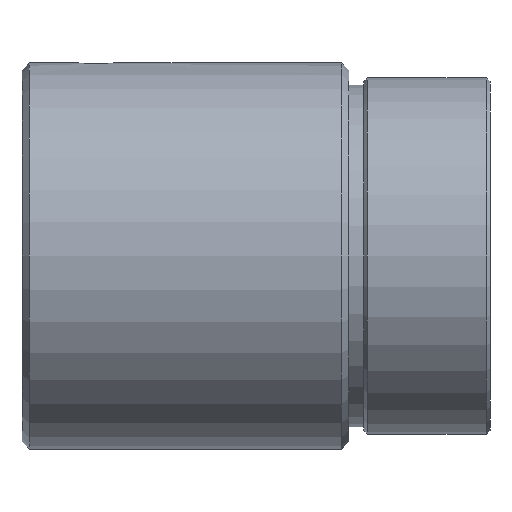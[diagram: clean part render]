
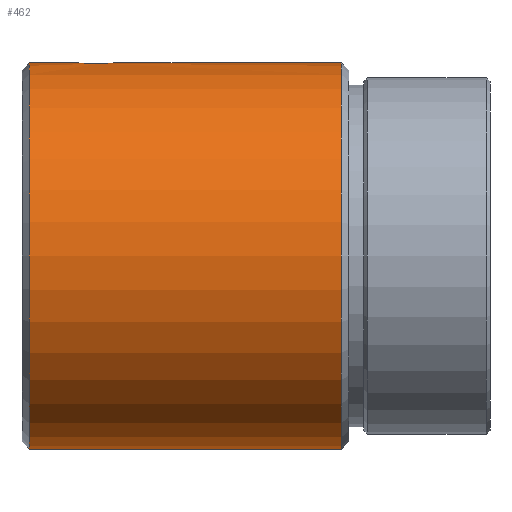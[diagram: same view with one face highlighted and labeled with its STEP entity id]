
A CAD part, front view. The second image highlights one B-rep face of the part: STEP entity #462.
In plain terms, the highlighted cylindrical face has radius 26 mm (diameter 52 mm), a partial arc.
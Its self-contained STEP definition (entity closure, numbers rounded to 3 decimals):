
#1 = CARTESIAN_POINT ( 'NONE',  ( 9.351, -2.42, 25.887 ) ) ;
#7 = VERTEX_POINT ( 'NONE', #93 ) ;
#8 = CARTESIAN_POINT ( 'NONE',  ( 12.168, -1.255, 25.97 ) ) ;
#22 = DIRECTION ( 'NONE',  ( 0., 0., 1. ) ) ;
#55 = CARTESIAN_POINT ( 'NONE',  ( -28.983, 0., 26. ) ) ;
#65 = CARTESIAN_POINT ( 'NONE',  ( 7.58, -0.648, 25.992 ) ) ;
#70 = CARTESIAN_POINT ( 'NONE',  ( 9.833, -2.5, 25.88 ) ) ;
#73 = DIRECTION ( 'NONE',  ( -1., 0., 0. ) ) ;
#77 = CARTESIAN_POINT ( 'NONE',  ( 12.434, -0.659, 25.993 ) ) ;
#93 = CARTESIAN_POINT ( 'NONE',  ( 43., 0., -26. ) ) ;
#101 = ORIENTED_EDGE ( 'NONE', *, *, #649, .F. ) ;
#115 = B_SPLINE_CURVE_WITH_KNOTS ( 'NONE', 3,
 ( #317, #673, #476, #65, #549, #139, #628, #216, #699, #281, #771, #342, #838, #411, #1, #480, #70, #555, #145, #632, #223, #705, #287, #778, #349, #846, #415, #8, #488, #77, #564, #153 ),
 .UNSPECIFIED., .F., .F.,
 ( 4, 2, 2, 2, 2, 2, 2, 2, 2, 2, 2, 2, 2, 2, 2, 4 ),
 ( 0.008, 0.008, 0.009, 0.009, 0.01, 0.01, 0.011, 0.011, 0.012, 0.012, 0.013, 0.013, 0.014, 0.014, 0.015, 0.016 ),
 .UNSPECIFIED. ) ;
#120 = ORIENTED_EDGE ( 'NONE', *, *, #755, .F. ) ;
#127 = DIRECTION ( 'NONE',  ( 0., 0., 1. ) ) ;
#139 = CARTESIAN_POINT ( 'NONE',  ( 7.752, -1.107, 25.977 ) ) ;
#145 = CARTESIAN_POINT ( 'NONE',  ( 10.326, -2.484, 25.881 ) ) ;
#149 = CARTESIAN_POINT ( 'NONE',  ( 1., 0., -26. ) ) ;
#153 = CARTESIAN_POINT ( 'NONE',  ( 12.5, 0., 26. ) ) ;
#163 = CYLINDRICAL_SURFACE ( 'NONE', #470, 26. ) ;
#166 = CARTESIAN_POINT ( 'NONE',  ( 7.5, 0., 26. ) ) ;
#216 = CARTESIAN_POINT ( 'NONE',  ( 8.012, -1.525, 25.956 ) ) ;
#223 = CARTESIAN_POINT ( 'NONE',  ( 10.804, -2.373, 25.892 ) ) ;
#244 = AXIS2_PLACEMENT_3D ( 'NONE', #398, #901, #467 ) ;
#273 = VECTOR ( 'NONE', #877, 1000. ) ;
#281 = CARTESIAN_POINT ( 'NONE',  ( 8.346, -1.882, 25.932 ) ) ;
#287 = CARTESIAN_POINT ( 'NONE',  ( 11.251, -2.171, 25.909 ) ) ;
#293 = ORIENTED_EDGE ( 'NONE', *, *, #596, .F. ) ;
#301 = LINE ( 'NONE', #378, #273 ) ;
#317 = CARTESIAN_POINT ( 'NONE',  ( 7.5, 0., 26. ) ) ;
#342 = CARTESIAN_POINT ( 'NONE',  ( 8.746, -2.169, 25.91 ) ) ;
#348 = CARTESIAN_POINT ( 'NONE',  ( 1., 0., 26. ) ) ;
#349 = CARTESIAN_POINT ( 'NONE',  ( 11.651, -1.884, 25.932 ) ) ;
#359 = VERTEX_POINT ( 'NONE', #785 ) ;
#362 = EDGE_LOOP ( 'NONE', ( #101, #706, #897, #293, #903, #120 ) ) ;
#378 = CARTESIAN_POINT ( 'NONE',  ( -28.983, 0., 26. ) ) ;
#379 = VERTEX_POINT ( 'NONE', #348 ) ;
#391 = LINE ( 'NONE', #888, #802 ) ;
#396 = DIRECTION ( 'NONE',  ( -1., 0., 0. ) ) ;
#398 = CARTESIAN_POINT ( 'NONE',  ( 1., 0., 0. ) ) ;
#405 = CIRCLE ( 'NONE', #244, 26. ) ;
#409 = AXIS2_PLACEMENT_3D ( 'NONE', #859, #430, #22 ) ;
#411 = CARTESIAN_POINT ( 'NONE',  ( 9.192, -2.372, 25.892 ) ) ;
#415 = CARTESIAN_POINT ( 'NONE',  ( 11.985, -1.528, 25.955 ) ) ;
#430 = DIRECTION ( 'NONE',  ( -1., 0., 0. ) ) ;
#438 = CIRCLE ( 'NONE', #409, 26. ) ;
#445 = VERTEX_POINT ( 'NONE', #497 ) ;
#461 = VERTEX_POINT ( 'NONE', #149 ) ;
#462 = ADVANCED_FACE ( 'NONE', ( #871 ), #163, .T. ) ;
#467 = DIRECTION ( 'NONE',  ( 0., 0., 1. ) ) ;
#470 = AXIS2_PLACEMENT_3D ( 'NONE', #560, #73, #127 ) ;
#476 = CARTESIAN_POINT ( 'NONE',  ( 7.516, -0.325, 25.998 ) ) ;
#480 = CARTESIAN_POINT ( 'NONE',  ( 9.671, -2.484, 25.881 ) ) ;
#488 = CARTESIAN_POINT ( 'NONE',  ( 12.246, -1.11, 25.977 ) ) ;
#497 = CARTESIAN_POINT ( 'NONE',  ( 12.5, 0., 26. ) ) ;
#502 = EDGE_CURVE ( 'NONE', #359, #445, #524, .T. ) ;
#524 = LINE ( 'NONE', #55, #697 ) ;
#549 = CARTESIAN_POINT ( 'NONE',  ( 7.628, -0.806, 25.988 ) ) ;
#555 = CARTESIAN_POINT ( 'NONE',  ( 10.163, -2.5, 25.88 ) ) ;
#560 = CARTESIAN_POINT ( 'NONE',  ( -28.983, 0., 0. ) ) ;
#564 = CARTESIAN_POINT ( 'NONE',  ( 12.5, -0.33, 26. ) ) ;
#587 = DIRECTION ( 'NONE',  ( -1., 0., 0. ) ) ;
#596 = EDGE_CURVE ( 'NONE', #910, #445, #115, .T. ) ;
#628 = CARTESIAN_POINT ( 'NONE',  ( 7.83, -1.252, 25.97 ) ) ;
#632 = CARTESIAN_POINT ( 'NONE',  ( 10.646, -2.421, 25.887 ) ) ;
#649 = EDGE_CURVE ( 'NONE', #7, #461, #391, .T. ) ;
#673 = CARTESIAN_POINT ( 'NONE',  ( 7.5, -0.163, 26. ) ) ;
#697 = VECTOR ( 'NONE', #396, 1000. ) ;
#699 = CARTESIAN_POINT ( 'NONE',  ( 8.116, -1.651, 25.948 ) ) ;
#705 = CARTESIAN_POINT ( 'NONE',  ( 11.107, -2.247, 25.903 ) ) ;
#706 = ORIENTED_EDGE ( 'NONE', *, *, #900, .T. ) ;
#715 = EDGE_CURVE ( 'NONE', #910, #379, #301, .T. ) ;
#755 = EDGE_CURVE ( 'NONE', #461, #379, #405, .T. ) ;
#771 = CARTESIAN_POINT ( 'NONE',  ( 8.475, -1.987, 25.924 ) ) ;
#778 = CARTESIAN_POINT ( 'NONE',  ( 11.523, -1.99, 25.924 ) ) ;
#785 = CARTESIAN_POINT ( 'NONE',  ( 43., 0., 26. ) ) ;
#802 = VECTOR ( 'NONE', #587, 1000. ) ;
#838 = CARTESIAN_POINT ( 'NONE',  ( 8.89, -2.246, 25.903 ) ) ;
#846 = CARTESIAN_POINT ( 'NONE',  ( 11.882, -1.654, 25.948 ) ) ;
#859 = CARTESIAN_POINT ( 'NONE',  ( 43., 0., 0. ) ) ;
#871 = FACE_OUTER_BOUND ( 'NONE', #362, .T. ) ;
#877 = DIRECTION ( 'NONE',  ( -1., 0., 0. ) ) ;
#888 = CARTESIAN_POINT ( 'NONE',  ( -28.983, 0., -26. ) ) ;
#897 = ORIENTED_EDGE ( 'NONE', *, *, #502, .T. ) ;
#900 = EDGE_CURVE ( 'NONE', #7, #359, #438, .T. ) ;
#901 = DIRECTION ( 'NONE',  ( -1., 0., 0. ) ) ;
#903 = ORIENTED_EDGE ( 'NONE', *, *, #715, .T. ) ;
#910 = VERTEX_POINT ( 'NONE', #166 ) ;
